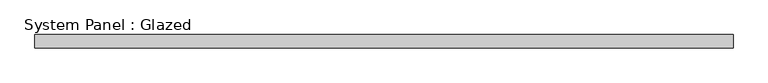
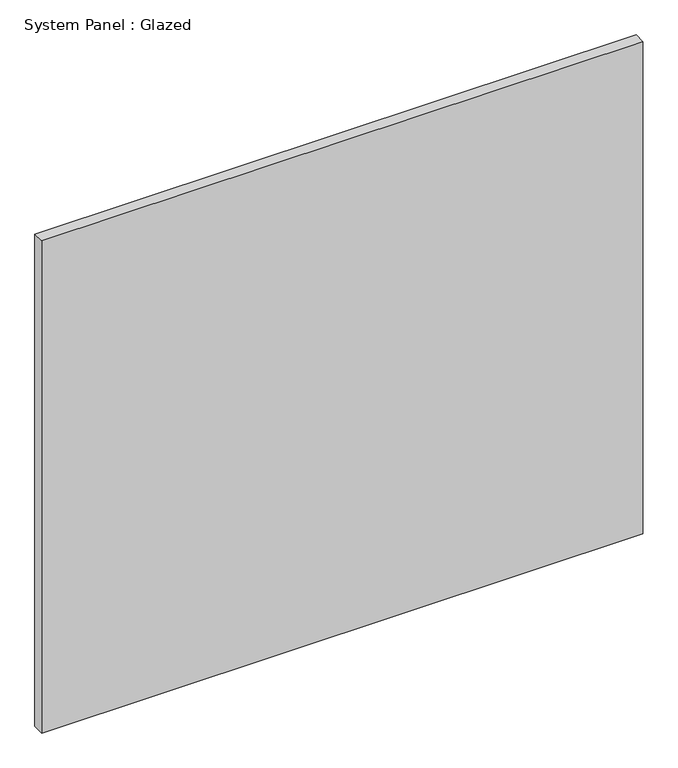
"""IFC4 building model written with IfcOpenShell, lengths in millimetres: plate geometry, System Panel : Glazed."""

from ifc_helpers import new_model, si_unit, origin, origin_with_axes, place, context, project, spatial, polyline, outline, extrude, source, transform, mapped, element, save


def system_panel_glazed_3f4f12dd(model_context):
    return source(origin(), model_context, "Body", "SweptSolid", [
        extrude(outline(polyline([(656.9445429, 19.05), (-656.9445429, 19.05), (-656.9445429, 44.45), (656.9445429, 44.45), (656.9445429, 19.05)])), origin_with_axes(), (0.0, 0.0, 1.0), 1137.4164677),
    ])


if __name__ == "__main__":
    model = new_model("IFC4")
    model_context = context("Model", 3, world=origin())
    ifc_project = project(units=[si_unit("LENGTHUNIT", "METRE", prefix="MILLI")], contexts=[model_context])
    site = spatial("IfcSite", under=ifc_project)
    building = spatial("IfcBuilding", under=site)
    placement = place(None, origin())
    system_panel_glazed_shape = system_panel_glazed_3f4f12dd(model_context)
    element("IfcPlate", 1, ObjectType="System Panel : Glazed", at=placement, inside=building, context=model_context, shape_type="MappedRepresentation", body=[
        mapped(system_panel_glazed_shape, transform((0.0, 0.0, 0.0), x_axis=(1.0, 0.0, 0.0), y_axis=(0.0, 1.0, 0.0), z_axis=(0.0, 0.0, 1.0))),
    ])
    save(model, "model.ifc")
